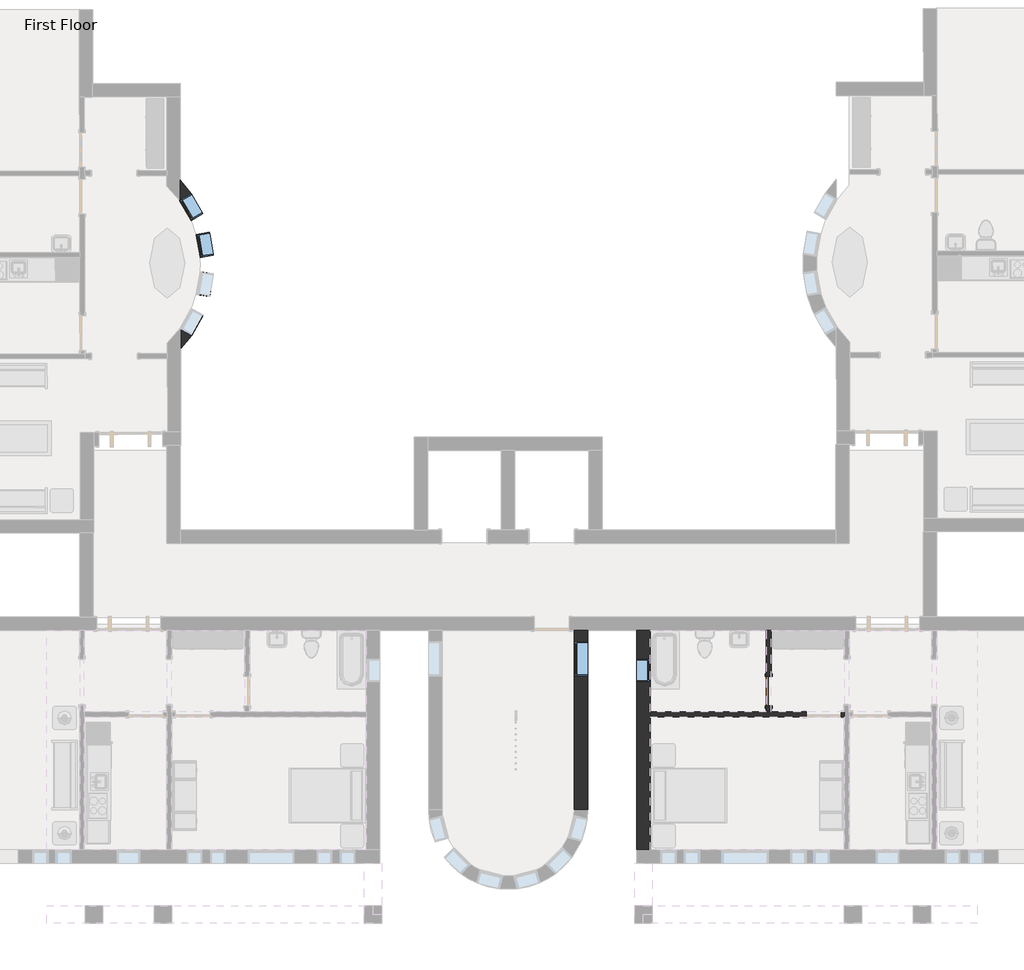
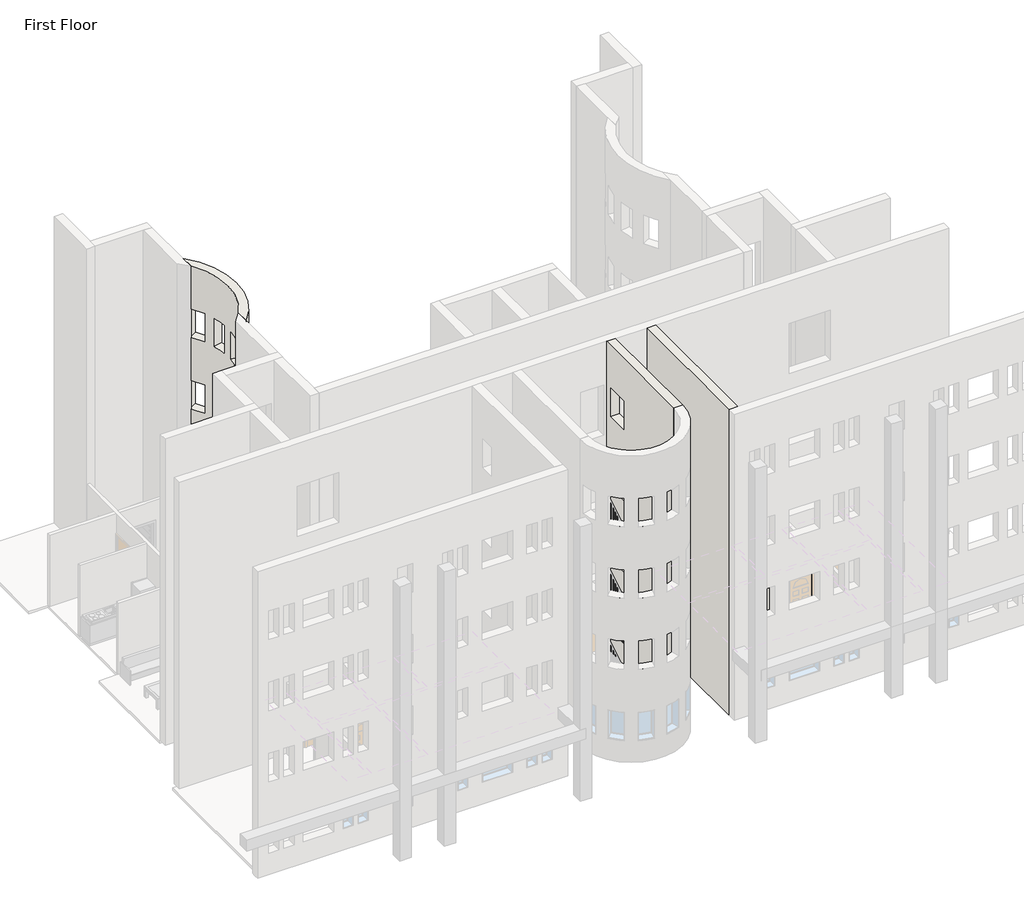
# One storey, part 5 of 21: 5 walls, 4 windows, 1 door.
"""IFC4 building model written with IfcOpenShell, lengths in millimetres."""

from ifc_helpers import new_model, si_unit, frame, origin, place, context, project, spatial, polyline, circle_curve, outline, extrude, faceted_brep, transform, mapped, element, save
from ifc_brep_helpers import plane_surface, cylinder_surface, revolved_surface, advanced_brep
from components import door_e36758a9, window_ed80354a, window_0e2fc6ce

model = new_model("IFC4")

# Units and contexts
model_context = context("Model", 3, world=origin())
ifc_project = project(units=[si_unit("LENGTHUNIT", "METRE", prefix="MILLI")], contexts=[model_context])

# Site, building, storey
site = spatial("IfcSite", under=ifc_project)
building = spatial("IfcBuilding", under=site)
storey = spatial("IfcBuildingStorey", under=building, Name="First Floor", Elevation=0.0)

# Door
placement = place(None, origin())
door_shape = door_e36758a9(model_context)
element("IfcDoor", 1, ObjectType="Single-Flush : 30\" x 84\"", at=placement, inside=storey, context=model_context, shape_type="MappedRepresentation", body=[
    mapped(door_shape, transform((-8105.7464563, -29722.2808133, 0.0), x_axis=(0.0, -1.0, 0.0), y_axis=(1.0, 0.0, 0.0), z_axis=(0.0, 0.0, 1.0))),
])

# Walls
element("IfcWall", 2, ObjectType="Exterior - Brick on Mtl. Stud", at=placement, inside=storey, context=model_context, shape_type="Brep", body=[
    faceted_brep([(-11569.6714563, -28134.7808133, 13106.4), (-11569.6714563, -33878.3558133, 13106.4), (-11217.2464563, -33878.3558133, 13106.4), (-11217.2464563, -28134.7808133, 13106.4), (-11569.6714563, -28134.7808133, 0.0), (-11569.6714563, -33878.3558133, 0.0), (-11569.6714563, -28872.9683133, 8229.6), (-11569.6714563, -29482.5683133, 8229.6), (-11569.6714563, -29482.5683133, 7010.4), (-11569.6714563, -28872.9683133, 7010.4), (-11569.6714563, -28872.9683133, 5181.6), (-11569.6714563, -29482.5683133, 5181.6), (-11569.6714563, -29482.5683133, 3962.4), (-11569.6714563, -28872.9683133, 3962.4), (-11569.6714563, -28872.9683133, 11277.6), (-11569.6714563, -29482.5683133, 11277.6), (-11569.6714563, -29482.5683133, 10058.4), (-11569.6714563, -28872.9683133, 10058.4), (-11569.6714563, -28872.9683133, 2133.6), (-11569.6714563, -29482.5683133, 2133.6), (-11569.6714563, -29482.5683133, 914.4), (-11569.6714563, -28872.9683133, 914.4), (-11217.2464563, -28134.7808133, 0.0), (-11217.2464563, -33878.3558133, 0.0), (-11217.2464563, -30395.3808133, 0.0), (-11217.2464563, -30268.3808133, 0.0), (-11217.2464563, -28872.9683133, 8229.6), (-11217.2464563, -28872.9683133, 7010.4), (-11217.2464563, -29482.5683133, 7010.4), (-11217.2464563, -29482.5683133, 8229.6), (-11217.2464563, -28872.9683133, 5181.6), (-11217.2464563, -28872.9683133, 3962.4), (-11217.2464563, -29482.5683133, 3962.4), (-11217.2464563, -29482.5683133, 5181.6), (-11217.2464563, -28872.9683133, 11277.6), (-11217.2464563, -28872.9683133, 10058.4), (-11217.2464563, -29482.5683133, 10058.4), (-11217.2464563, -29482.5683133, 11277.6), (-11217.2464563, -28872.9683133, 2133.6), (-11217.2464563, -28872.9683133, 914.4), (-11217.2464563, -29482.5683133, 914.4), (-11217.2464563, -29482.5683133, 2133.6), (-11382.3464563, -28134.7808133, 0.0), (-11382.3464563, -33878.3558133, 0.0)], [[[0, 1, 2, 3]], [[4, 5, 1, 0], [6, 7, 8, 9], [10, 11, 12, 13], [14, 15, 16, 17], [18, 19, 20, 21]], [[22, 3, 2, 23, 24, 25], [26, 27, 28, 29], [30, 31, 32, 33], [34, 35, 36, 37], [38, 39, 40, 41]], [[4, 0, 3, 22, 42]], [[1, 5, 43, 23, 2]], [[5, 4, 42, 43]], [[42, 22, 25, 24, 23, 43]], [[27, 26, 6, 9]], [[28, 27, 9, 8]], [[29, 28, 8, 7]], [[26, 29, 7, 6]], [[31, 30, 10, 13]], [[32, 31, 13, 12]], [[33, 32, 12, 11]], [[30, 33, 11, 10]], [[35, 34, 14, 17]], [[36, 35, 17, 16]], [[37, 36, 16, 15]], [[34, 37, 15, 14]], [[39, 38, 18, 21]], [[40, 39, 21, 20]], [[41, 40, 20, 19]], [[38, 41, 19, 18]]]),
])
element("IfcWall", 3, ObjectType="Exterior - Brick on Mtl. Stud", at=placement, inside=storey, context=model_context, shape_type="SweptSolid", body=[
    extrude(outline(polyline([(-28134.7808133, 0.0), (-32835.3683133, 0.0), (-32835.3683133, 13106.4), (-28134.7808133, 13106.4), (-28134.7808133, 0.0)]), holes=[polyline([(-29330.1683133, 8229.6), (-29330.1683133, 7010.4), (-28415.7683133, 7010.4), (-28415.7683133, 8229.6), (-29330.1683133, 8229.6)]), polyline([(-29330.1683133, 5181.6), (-29330.1683133, 3962.4), (-28415.7683133, 3962.4), (-28415.7683133, 5181.6), (-29330.1683133, 5181.6)]), polyline([(-29330.1683133, 11277.6), (-29330.1683133, 10058.4), (-28415.7683133, 10058.4), (-28415.7683133, 11277.6), (-29330.1683133, 11277.6)]), polyline([(-29330.1683133, 2133.6), (-29330.1683133, 914.4), (-28415.7683133, 914.4), (-28415.7683133, 2133.6), (-29330.1683133, 2133.6)])]), frame((-13206.3839563, 0.0, 0.0), z_axis=(1.0, 0.0, 0.0), x_axis=(0.0, 1.0, 0.0)), (0.0, 0.0, 1.0), 352.425),
])
element("IfcWall", 4, ObjectType="Exterior - Brick on Mtl. Stud", at=placement, inside=storey, context=model_context, shape_type="AdvancedBrep", body=[
    advanced_brep(
    [(-23510.1151853, -20743.0117614, 13106.4), (-23520.152293, -16334.2527188, 13106.4), (-23518.8821774, -16892.1458572, 13106.4), (-23511.3853009, -20185.118623, 13106.4), (-23520.152293, -16334.2527188, 0.0), (-23510.1151853, -20743.0117614, 0.0), (-23511.3853009, -20185.118623, 0.0), (-23518.8821774, -16892.1458572, 0.0), (-22933.0717066, -17209.2743071, 914.4), (-22933.0717066, -17209.2743071, 2133.6), (-23236.7539389, -16680.7014533, 2133.6), (-23236.7539389, -16680.7014533, 914.4), (-22927.0248626, -19865.3261284, 2133.6), (-22927.0248626, -19865.3261284, 914.4), (-23228.297231, -20395.2762393, 914.4), (-23228.297231, -20395.2762393, 2133.6), (-22933.0717066, -17209.2743071, 10058.4), (-22933.0717066, -17209.2743071, 11277.6), (-23236.7539389, -16680.7014533, 11277.6), (-23236.7539389, -16680.7014533, 10058.4), (-22927.0248626, -19865.3261284, 11277.6), (-22927.0248626, -19865.3261284, 10058.4), (-23228.297231, -20395.2762393, 10058.4), (-23228.297231, -20395.2762393, 11277.6), (-22933.0717066, -17209.2743071, 3962.4), (-22933.0717066, -17209.2743071, 5181.6), (-23236.7539389, -16680.7014533, 5181.6), (-23236.7539389, -16680.7014533, 3962.4), (-22927.0248626, -19865.3261284, 5181.6), (-22927.0248626, -19865.3261284, 3962.4), (-23228.297231, -20395.2762393, 3962.4), (-23228.297231, -20395.2762393, 5181.6), (-22933.0717066, -17209.2743071, 7010.4), (-22933.0717066, -17209.2743071, 8229.6), (-23236.7539389, -16680.7014533, 8229.6), (-23236.7539389, -16680.7014533, 7010.4), (-22927.0248626, -19865.3261284, 8229.6), (-22927.0248626, -19865.3261284, 7010.4), (-23228.297231, -20395.2762393, 7010.4), (-23228.297231, -20395.2762393, 8229.6), (-22652.5650573, -18781.0938546, 8229.6), (-22652.5650573, -18781.0938546, 7010.4), (-22754.6659029, -19382.0826876, 7010.4), (-22754.6659029, -19382.0826876, 8229.6), (-22653.6779832, -18292.245662, 8229.6), (-22758.5142132, -17691.7279479, 8229.6), (-22758.5142132, -17691.7279479, 7010.4), (-22653.6779832, -18292.245662, 7010.4), (-22652.5650573, -18781.0938546, 5181.6), (-22652.5650573, -18781.0938546, 3962.4), (-22754.6659029, -19382.0826876, 3962.4), (-22754.6659029, -19382.0826876, 5181.6), (-22653.6779832, -18292.245662, 5181.6), (-22758.5142132, -17691.7279479, 5181.6), (-22758.5142132, -17691.7279479, 3962.4), (-22653.6779832, -18292.245662, 3962.4), (-22652.5650573, -18781.0938546, 11277.6), (-22652.5650573, -18781.0938546, 10058.4), (-22754.6659029, -19382.0826876, 10058.4), (-22754.6659029, -19382.0826876, 11277.6), (-22653.6779832, -18292.245662, 11277.6), (-22758.5142132, -17691.7279479, 11277.6), (-22758.5142132, -17691.7279479, 10058.4), (-22653.6779832, -18292.245662, 10058.4), (-22652.5650573, -18781.0938546, 2133.6), (-22652.5650573, -18781.0938546, 914.4), (-22754.6659029, -19382.0826876, 914.4), (-22754.6659029, -19382.0826876, 2133.6), (-22653.6779832, -18292.245662, 2133.6), (-22758.5142132, -17691.7279479, 2133.6), (-22758.5142132, -17691.7279479, 914.4), (-22653.6779832, -18292.245662, 914.4), (-23518.8821774, -16892.1458572, 11277.6), (-23240.197604, -17385.7280871, 11277.6), (-23240.197604, -17385.7280871, 10058.4), (-23518.8821774, -16892.1458572, 10058.4), (-23518.8821774, -16892.1458572, 8229.6), (-23240.197604, -17385.7280871, 8229.6), (-23240.197604, -17385.7280871, 7010.4), (-23518.8821774, -16892.1458572, 7010.4), (-23518.8821774, -16892.1458572, 5181.6), (-23240.197604, -17385.7280871, 5181.6), (-23240.197604, -17385.7280871, 3962.4), (-23518.8821774, -16892.1458572, 3962.4), (-23518.8821774, -16892.1458572, 2133.6), (-23240.197604, -17385.7280871, 2133.6), (-23240.197604, -17385.7280871, 914.4), (-23518.8821774, -16892.1458572, 914.4), (-23511.3853009, -20185.118623, 914.4), (-23234.9510116, -19690.2725935, 914.4), (-23234.9510116, -19690.2725935, 2133.6), (-23511.3853009, -20185.118623, 2133.6), (-23511.3853009, -20185.118623, 3962.4), (-23234.9510116, -19690.2725935, 3962.4), (-23234.9510116, -19690.2725935, 5181.6), (-23511.3853009, -20185.118623, 5181.6), (-23511.3853009, -20185.118623, 7010.4), (-23234.9510116, -19690.2725935, 7010.4), (-23234.9510116, -19690.2725935, 8229.6), (-23511.3853009, -20185.118623, 8229.6), (-23511.3853009, -20185.118623, 10058.4), (-23234.9510116, -19690.2725935, 10058.4), (-23234.9510116, -19690.2725935, 11277.6), (-23511.3853009, -20185.118623, 11277.6), (-23001.7680731, -18721.7684209, 8229.6), (-23103.8689187, -19322.7572538, 8229.6), (-23103.8689187, -19322.7572538, 7010.4), (-23001.7680731, -18721.7684209, 7010.4), (-23002.6072565, -18353.1604838, 8229.6), (-23002.6072565, -18353.1604838, 7010.4), (-23107.4434865, -17752.6427697, 7010.4), (-23107.4434865, -17752.6427697, 8229.6), (-23001.7680731, -18721.7684209, 5181.6), (-23103.8689187, -19322.7572538, 5181.6), (-23103.8689187, -19322.7572538, 3962.4), (-23001.7680731, -18721.7684209, 3962.4), (-23002.6072565, -18353.1604838, 5181.6), (-23002.6072565, -18353.1604838, 3962.4), (-23107.4434865, -17752.6427697, 3962.4), (-23107.4434865, -17752.6427697, 5181.6), (-23001.7680731, -18721.7684209, 11277.6), (-23103.8689187, -19322.7572538, 11277.6), (-23103.8689187, -19322.7572538, 10058.4), (-23001.7680731, -18721.7684209, 10058.4), (-23002.6072565, -18353.1604838, 11277.6), (-23002.6072565, -18353.1604838, 10058.4), (-23107.4434865, -17752.6427697, 10058.4), (-23107.4434865, -17752.6427697, 11277.6), (-23001.7680731, -18721.7684209, 2133.6), (-23103.8689187, -19322.7572538, 2133.6), (-23103.8689187, -19322.7572538, 914.4), (-23001.7680731, -18721.7684209, 914.4), (-23002.6072565, -18353.1604838, 2133.6), (-23002.6072565, -18353.1604838, 914.4), (-23107.4434865, -17752.6427697, 914.4), (-23107.4434865, -17752.6427697, 2133.6), (-23511.2730901, -20234.4067432, 11277.6), (-23511.2730901, -20234.4067432, 10058.4), (-23511.2730901, -20234.4067432, 8229.6), (-23511.2730901, -20234.4067432, 7010.4), (-23511.2730901, -20234.4067432, 5181.6), (-23511.2730901, -20234.4067432, 3962.4), (-23511.2730901, -20234.4067432, 2133.6), (-23511.2730901, -20234.4067432, 914.4), (-23518.9943882, -16842.857737, 914.4), (-23518.9943882, -16842.857737, 2133.6), (-23518.9943882, -16842.857737, 3962.4), (-23518.9943882, -16842.857737, 5181.6), (-23518.9943882, -16842.857737, 7010.4), (-23518.9943882, -16842.857737, 8229.6), (-23518.9943882, -16842.857737, 10058.4), (-23518.9943882, -16842.857737, 11277.6)],
    [
        (0, 1, circle_curve(frame((-25868.0475266, -18543.9889514, 13106.4), z_axis=(0.0, 0.0, 1.0), x_axis=(0.0022766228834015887, -0.9999974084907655, 0.0)), 3224.2125)),
        (1, 2),
        (2, 3, circle_curve(frame((-25868.0475266, -18543.9889514, 13106.4), z_axis=(0.0, 0.0, -1.0), x_axis=(0.0022766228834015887, -0.9999974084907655, 0.0)), 2871.7875)),
        (3, 0),
        (4, 5, circle_curve(frame((-25868.0475266, -18543.9889514, 0.0), z_axis=(0.0, 0.0, -1.0), x_axis=(0.0022766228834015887, -0.9999974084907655, 0.0)), 3224.2125)),
        (5, 6),
        (6, 7, circle_curve(frame((-25868.0475266, -18543.9889514, 0.0), z_axis=(0.0, 0.0, 1.0), x_axis=(0.0022766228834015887, -0.9999974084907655, 0.0)), 2871.7875)),
        (7, 4),
        (0, 5),
        (4, 1),
        (8, 9),
        (9, 10, circle_curve(frame((-25868.0475266, -18543.9889514, 2133.6), z_axis=(0.0, 0.0, 1.0), x_axis=(0.0022766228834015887, -0.9999974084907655, 0.0)), 3224.2125)),
        (10, 11),
        (11, 8, circle_curve(frame((-25868.0475266, -18543.9889514, 914.4), z_axis=(0.0, 0.0, -1.0), x_axis=(0.0022766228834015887, -0.9999974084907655, 0.0)), 3224.2125)),
        (12, 13),
        (13, 14, circle_curve(frame((-25868.0475266, -18543.9889514, 914.4), z_axis=(0.0, 0.0, -1.0), x_axis=(0.0022766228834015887, -0.9999974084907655, 0.0)), 3224.2125)),
        (14, 15),
        (15, 12, circle_curve(frame((-25868.0475266, -18543.9889514, 2133.6), z_axis=(0.0, 0.0, 1.0), x_axis=(0.0022766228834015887, -0.9999974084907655, 0.0)), 3224.2125)),
        (16, 17),
        (17, 18, circle_curve(frame((-25868.0475266, -18543.9889514, 11277.6), z_axis=(0.0, 0.0, 1.0), x_axis=(0.0022766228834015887, -0.9999974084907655, 0.0)), 3224.2125)),
        (18, 19),
        (19, 16, circle_curve(frame((-25868.0475266, -18543.9889514, 10058.4), z_axis=(0.0, 0.0, -1.0), x_axis=(0.0022766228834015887, -0.9999974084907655, 0.0)), 3224.2125)),
        (20, 21),
        (21, 22, circle_curve(frame((-25868.0475266, -18543.9889514, 10058.4), z_axis=(0.0, 0.0, -1.0), x_axis=(0.0022766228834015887, -0.9999974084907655, 0.0)), 3224.2125)),
        (22, 23),
        (23, 20, circle_curve(frame((-25868.0475266, -18543.9889514, 11277.6), z_axis=(0.0, 0.0, 1.0), x_axis=(0.0022766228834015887, -0.9999974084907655, 0.0)), 3224.2125)),
        (24, 25),
        (25, 26, circle_curve(frame((-25868.0475266, -18543.9889514, 5181.6), z_axis=(0.0, 0.0, 1.0), x_axis=(0.0022766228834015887, -0.9999974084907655, 0.0)), 3224.2125)),
        (26, 27),
        (27, 24, circle_curve(frame((-25868.0475266, -18543.9889514, 3962.4), z_axis=(0.0, 0.0, -1.0), x_axis=(0.0022766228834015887, -0.9999974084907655, 0.0)), 3224.2125)),
        (28, 29),
        (29, 30, circle_curve(frame((-25868.0475266, -18543.9889514, 3962.4), z_axis=(0.0, 0.0, -1.0), x_axis=(0.0022766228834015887, -0.9999974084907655, 0.0)), 3224.2125)),
        (30, 31),
        (31, 28, circle_curve(frame((-25868.0475266, -18543.9889514, 5181.6), z_axis=(0.0, 0.0, 1.0), x_axis=(0.0022766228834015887, -0.9999974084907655, 0.0)), 3224.2125)),
        (32, 33),
        (33, 34, circle_curve(frame((-25868.0475266, -18543.9889514, 8229.6), z_axis=(0.0, 0.0, 1.0), x_axis=(0.0022766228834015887, -0.9999974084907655, 0.0)), 3224.2125)),
        (34, 35),
        (35, 32, circle_curve(frame((-25868.0475266, -18543.9889514, 7010.4), z_axis=(0.0, 0.0, -1.0), x_axis=(0.0022766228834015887, -0.9999974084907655, 0.0)), 3224.2125)),
        (36, 37),
        (37, 38, circle_curve(frame((-25868.0475266, -18543.9889514, 7010.4), z_axis=(0.0, 0.0, -1.0), x_axis=(0.0022766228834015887, -0.9999974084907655, 0.0)), 3224.2125)),
        (38, 39),
        (39, 36, circle_curve(frame((-25868.0475266, -18543.9889514, 8229.6), z_axis=(0.0, 0.0, 1.0), x_axis=(0.0022766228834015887, -0.9999974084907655, 0.0)), 3224.2125)),
        (40, 41),
        (41, 42, circle_curve(frame((-25868.0475266, -18543.9889514, 7010.4), z_axis=(0.0, 0.0, -1.0), x_axis=(0.0022766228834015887, -0.9999974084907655, 0.0)), 3224.2125)),
        (42, 43),
        (43, 40, circle_curve(frame((-25868.0475266, -18543.9889514, 8229.6), z_axis=(0.0, 0.0, 1.0), x_axis=(0.0022766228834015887, -0.9999974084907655, 0.0)), 3224.2125)),
        (44, 45, circle_curve(frame((-25868.0475266, -18543.9889514, 8229.6), z_axis=(0.0, 0.0, 1.0), x_axis=(0.0022766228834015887, -0.9999974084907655, 0.0)), 3224.2125)),
        (45, 46),
        (46, 47, circle_curve(frame((-25868.0475266, -18543.9889514, 7010.4), z_axis=(0.0, 0.0, -1.0), x_axis=(0.0022766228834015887, -0.9999974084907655, 0.0)), 3224.2125)),
        (47, 44),
        (48, 49),
        (49, 50, circle_curve(frame((-25868.0475266, -18543.9889514, 3962.4), z_axis=(0.0, 0.0, -1.0), x_axis=(0.0022766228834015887, -0.9999974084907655, 0.0)), 3224.2125)),
        (50, 51),
        (51, 48, circle_curve(frame((-25868.0475266, -18543.9889514, 5181.6), z_axis=(0.0, 0.0, 1.0), x_axis=(0.0022766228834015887, -0.9999974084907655, 0.0)), 3224.2125)),
        (52, 53, circle_curve(frame((-25868.0475266, -18543.9889514, 5181.6), z_axis=(0.0, 0.0, 1.0), x_axis=(0.0022766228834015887, -0.9999974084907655, 0.0)), 3224.2125)),
        (53, 54),
        (54, 55, circle_curve(frame((-25868.0475266, -18543.9889514, 3962.4), z_axis=(0.0, 0.0, -1.0), x_axis=(0.0022766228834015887, -0.9999974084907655, 0.0)), 3224.2125)),
        (55, 52),
        (56, 57),
        (57, 58, circle_curve(frame((-25868.0475266, -18543.9889514, 10058.4), z_axis=(0.0, 0.0, -1.0), x_axis=(0.0022766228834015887, -0.9999974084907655, 0.0)), 3224.2125)),
        (58, 59),
        (59, 56, circle_curve(frame((-25868.0475266, -18543.9889514, 11277.6), z_axis=(0.0, 0.0, 1.0), x_axis=(0.0022766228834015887, -0.9999974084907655, 0.0)), 3224.2125)),
        (60, 61, circle_curve(frame((-25868.0475266, -18543.9889514, 11277.6), z_axis=(0.0, 0.0, 1.0), x_axis=(0.0022766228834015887, -0.9999974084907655, 0.0)), 3224.2125)),
        (61, 62),
        (62, 63, circle_curve(frame((-25868.0475266, -18543.9889514, 10058.4), z_axis=(0.0, 0.0, -1.0), x_axis=(0.0022766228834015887, -0.9999974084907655, 0.0)), 3224.2125)),
        (63, 60),
        (64, 65),
        (65, 66, circle_curve(frame((-25868.0475266, -18543.9889514, 914.4), z_axis=(0.0, 0.0, -1.0), x_axis=(0.0022766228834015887, -0.9999974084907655, 0.0)), 3224.2125)),
        (66, 67),
        (67, 64, circle_curve(frame((-25868.0475266, -18543.9889514, 2133.6), z_axis=(0.0, 0.0, 1.0), x_axis=(0.0022766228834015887, -0.9999974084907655, 0.0)), 3224.2125)),
        (68, 69, circle_curve(frame((-25868.0475266, -18543.9889514, 2133.6), z_axis=(0.0, 0.0, 1.0), x_axis=(0.0022766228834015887, -0.9999974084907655, 0.0)), 3224.2125)),
        (69, 70),
        (70, 71, circle_curve(frame((-25868.0475266, -18543.9889514, 914.4), z_axis=(0.0, 0.0, -1.0), x_axis=(0.0022766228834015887, -0.9999974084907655, 0.0)), 3224.2125)),
        (71, 68),
        (2, 72),
        (72, 73, circle_curve(frame((-25868.0475266, -18543.9889514, 11277.6), z_axis=(0.0, 0.0, -1.0), x_axis=(0.0022766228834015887, -0.9999974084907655, 0.0)), 2871.7875)),
        (73, 74),
        (74, 75, circle_curve(frame((-25868.0475266, -18543.9889514, 10058.4), z_axis=(0.0, 0.0, 1.0), x_axis=(0.0022766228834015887, -0.9999974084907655, 0.0)), 2871.7875)),
        (75, 76),
        (76, 77, circle_curve(frame((-25868.0475266, -18543.9889514, 8229.6), z_axis=(0.0, 0.0, -1.0), x_axis=(0.0022766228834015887, -0.9999974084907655, 0.0)), 2871.7875)),
        (77, 78),
        (78, 79, circle_curve(frame((-25868.0475266, -18543.9889514, 7010.4), z_axis=(0.0, 0.0, 1.0), x_axis=(0.0022766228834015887, -0.9999974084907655, 0.0)), 2871.7875)),
        (79, 80),
        (80, 81, circle_curve(frame((-25868.0475266, -18543.9889514, 5181.6), z_axis=(0.0, 0.0, -1.0), x_axis=(0.0022766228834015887, -0.9999974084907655, 0.0)), 2871.7875)),
        (81, 82),
        (82, 83, circle_curve(frame((-25868.0475266, -18543.9889514, 3962.4), z_axis=(0.0, 0.0, 1.0), x_axis=(0.0022766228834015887, -0.9999974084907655, 0.0)), 2871.7875)),
        (83, 84),
        (84, 85, circle_curve(frame((-25868.0475266, -18543.9889514, 2133.6), z_axis=(0.0, 0.0, -1.0), x_axis=(0.0022766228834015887, -0.9999974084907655, 0.0)), 2871.7875)),
        (85, 86),
        (86, 87, circle_curve(frame((-25868.0475266, -18543.9889514, 914.4), z_axis=(0.0, 0.0, 1.0), x_axis=(0.0022766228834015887, -0.9999974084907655, 0.0)), 2871.7875)),
        (87, 7),
        (6, 88),
        (88, 89, circle_curve(frame((-25868.0475266, -18543.9889514, 914.4), z_axis=(0.0, 0.0, 1.0), x_axis=(0.0022766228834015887, -0.9999974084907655, 0.0)), 2871.7875)),
        (89, 90),
        (90, 91, circle_curve(frame((-25868.0475266, -18543.9889514, 2133.6), z_axis=(0.0, 0.0, -1.0), x_axis=(0.0022766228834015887, -0.9999974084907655, 0.0)), 2871.7875)),
        (91, 92),
        (92, 93, circle_curve(frame((-25868.0475266, -18543.9889514, 3962.4), z_axis=(0.0, 0.0, 1.0), x_axis=(0.0022766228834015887, -0.9999974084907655, 0.0)), 2871.7875)),
        (93, 94),
        (94, 95, circle_curve(frame((-25868.0475266, -18543.9889514, 5181.6), z_axis=(0.0, 0.0, -1.0), x_axis=(0.0022766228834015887, -0.9999974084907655, 0.0)), 2871.7875)),
        (95, 96),
        (96, 97, circle_curve(frame((-25868.0475266, -18543.9889514, 7010.4), z_axis=(0.0, 0.0, 1.0), x_axis=(0.0022766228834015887, -0.9999974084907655, 0.0)), 2871.7875)),
        (97, 98),
        (98, 99, circle_curve(frame((-25868.0475266, -18543.9889514, 8229.6), z_axis=(0.0, 0.0, -1.0), x_axis=(0.0022766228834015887, -0.9999974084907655, 0.0)), 2871.7875)),
        (99, 100),
        (100, 101, circle_curve(frame((-25868.0475266, -18543.9889514, 10058.4), z_axis=(0.0, 0.0, 1.0), x_axis=(0.0022766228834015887, -0.9999974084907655, 0.0)), 2871.7875)),
        (101, 102),
        (102, 103, circle_curve(frame((-25868.0475266, -18543.9889514, 11277.6), z_axis=(0.0, 0.0, -1.0), x_axis=(0.0022766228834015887, -0.9999974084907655, 0.0)), 2871.7875)),
        (103, 3),
        (104, 105, circle_curve(frame((-25868.0475266, -18543.9889514, 8229.6), z_axis=(0.0, 0.0, -1.0), x_axis=(0.0022766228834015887, -0.9999974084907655, 0.0)), 2871.7875)),
        (105, 106),
        (106, 107, circle_curve(frame((-25868.0475266, -18543.9889514, 7010.4), z_axis=(0.0, 0.0, 1.0), x_axis=(0.0022766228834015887, -0.9999974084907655, 0.0)), 2871.7875)),
        (107, 104),
        (108, 109),
        (109, 110, circle_curve(frame((-25868.0475266, -18543.9889514, 7010.4), z_axis=(0.0, 0.0, 1.0), x_axis=(0.0022766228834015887, -0.9999974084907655, 0.0)), 2871.7875)),
        (110, 111),
        (111, 108, circle_curve(frame((-25868.0475266, -18543.9889514, 8229.6), z_axis=(0.0, 0.0, -1.0), x_axis=(0.0022766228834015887, -0.9999974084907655, 0.0)), 2871.7875)),
        (112, 113, circle_curve(frame((-25868.0475266, -18543.9889514, 5181.6), z_axis=(0.0, 0.0, -1.0), x_axis=(0.0022766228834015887, -0.9999974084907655, 0.0)), 2871.7875)),
        (113, 114),
        (114, 115, circle_curve(frame((-25868.0475266, -18543.9889514, 3962.4), z_axis=(0.0, 0.0, 1.0), x_axis=(0.0022766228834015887, -0.9999974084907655, 0.0)), 2871.7875)),
        (115, 112),
        (116, 117),
        (117, 118, circle_curve(frame((-25868.0475266, -18543.9889514, 3962.4), z_axis=(0.0, 0.0, 1.0), x_axis=(0.0022766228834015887, -0.9999974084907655, 0.0)), 2871.7875)),
        (118, 119),
        (119, 116, circle_curve(frame((-25868.0475266, -18543.9889514, 5181.6), z_axis=(0.0, 0.0, -1.0), x_axis=(0.0022766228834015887, -0.9999974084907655, 0.0)), 2871.7875)),
        (120, 121, circle_curve(frame((-25868.0475266, -18543.9889514, 11277.6), z_axis=(0.0, 0.0, -1.0), x_axis=(0.0022766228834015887, -0.9999974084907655, 0.0)), 2871.7875)),
        (121, 122),
        (122, 123, circle_curve(frame((-25868.0475266, -18543.9889514, 10058.4), z_axis=(0.0, 0.0, 1.0), x_axis=(0.0022766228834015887, -0.9999974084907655, 0.0)), 2871.7875)),
        (123, 120),
        (124, 125),
        (125, 126, circle_curve(frame((-25868.0475266, -18543.9889514, 10058.4), z_axis=(0.0, 0.0, 1.0), x_axis=(0.0022766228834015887, -0.9999974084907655, 0.0)), 2871.7875)),
        (126, 127),
        (127, 124, circle_curve(frame((-25868.0475266, -18543.9889514, 11277.6), z_axis=(0.0, 0.0, -1.0), x_axis=(0.0022766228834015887, -0.9999974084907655, 0.0)), 2871.7875)),
        (128, 129, circle_curve(frame((-25868.0475266, -18543.9889514, 2133.6), z_axis=(0.0, 0.0, -1.0), x_axis=(0.0022766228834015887, -0.9999974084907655, 0.0)), 2871.7875)),
        (129, 130),
        (130, 131, circle_curve(frame((-25868.0475266, -18543.9889514, 914.4), z_axis=(0.0, 0.0, 1.0), x_axis=(0.0022766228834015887, -0.9999974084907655, 0.0)), 2871.7875)),
        (131, 128),
        (132, 133),
        (133, 134, circle_curve(frame((-25868.0475266, -18543.9889514, 914.4), z_axis=(0.0, 0.0, 1.0), x_axis=(0.0022766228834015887, -0.9999974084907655, 0.0)), 2871.7875)),
        (134, 135),
        (135, 132, circle_curve(frame((-25868.0475266, -18543.9889514, 2133.6), z_axis=(0.0, 0.0, -1.0), x_axis=(0.0022766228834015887, -0.9999974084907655, 0.0)), 2871.7875)),
        (103, 136),
        (136, 137),
        (137, 100),
        (99, 138),
        (138, 139),
        (139, 96),
        (95, 140),
        (140, 141),
        (141, 92),
        (91, 142),
        (142, 143),
        (143, 88),
        (87, 144),
        (144, 145),
        (145, 84),
        (83, 146),
        (146, 147),
        (147, 80),
        (79, 148),
        (148, 149),
        (149, 76),
        (75, 150),
        (150, 151),
        (151, 72),
        (85, 9),
        (8, 86),
        (11, 144),
        (10, 145),
        (12, 90),
        (89, 13),
        (143, 14),
        (142, 15),
        (73, 17),
        (16, 74),
        (19, 150),
        (18, 151),
        (20, 102),
        (101, 21),
        (137, 22),
        (136, 23),
        (81, 25),
        (24, 82),
        (27, 146),
        (26, 147),
        (28, 94),
        (93, 29),
        (141, 30),
        (140, 31),
        (77, 33),
        (32, 78),
        (35, 148),
        (34, 149),
        (36, 98),
        (97, 37),
        (139, 38),
        (138, 39),
        (40, 104),
        (107, 41),
        (106, 42),
        (105, 43),
        (108, 44),
        (47, 109),
        (46, 110),
        (45, 111),
        (48, 112),
        (115, 49),
        (114, 50),
        (113, 51),
        (116, 52),
        (55, 117),
        (54, 118),
        (53, 119),
        (56, 120),
        (123, 57),
        (122, 58),
        (121, 59),
        (124, 60),
        (63, 125),
        (62, 126),
        (61, 127),
        (64, 128),
        (131, 65),
        (130, 66),
        (129, 67),
        (132, 68),
        (71, 133),
        (70, 134),
        (69, 135),
    ],
    [
        plane_surface(frame((-25860.7072106, -21768.1930958, 13106.4), z_axis=(0.0, 0.0, 1.0), x_axis=(0.9999974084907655, 0.0022766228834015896, 0.0))),
        plane_surface(frame((-25860.7072106, -21768.1930958, 0.0), z_axis=(0.0, 0.0, -1.0), x_axis=(-0.9999974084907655, -0.0022766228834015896, 0.0))),
        cylinder_surface(frame((-25868.0475266, -18543.9889514, 0.0), z_axis=(0.0, 0.0, 0.9999999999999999), x_axis=(0.0022766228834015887, -0.9999974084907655, 0.0)), 3224.2125),
        revolved_surface(polyline([(-25861.509549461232, -21415.769009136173, 0.0), (-25861.509549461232, -21415.769009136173, 13106.399999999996)]), (-25868.0475266, -18543.9889514, 0.0), (0.0, 0.0, -0.9999999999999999)),
        plane_surface(frame((-23504.7250193, -23110.6203917, 0.0), z_axis=(-0.9999974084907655, -0.002276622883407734, 0.0), x_axis=(-0.002276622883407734, 0.9999974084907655, 0.0))),
        plane_surface(frame((-23525.542459, -13966.6440885, 0.0), z_axis=(-0.9999974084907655, -0.0022766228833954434, 0.0), x_axis=(-0.0022766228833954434, 0.9999974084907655, 0.0))),
        plane_surface(frame((-21611.639572, -16450.0687265, 2133.6), z_axis=(-0.49816639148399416, 0.8670814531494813, 0.0), x_axis=(-0.8670814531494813, -0.49816639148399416, 0.0))),
        plane_surface(frame((-21611.639572, -16450.0687265, 914.4), z_axis=(0.0, 0.0, 1.0000000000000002), x_axis=(-0.8670814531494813, -0.49816639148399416, 0.0))),
        plane_surface(frame((-21915.3218043, -15921.4958726, 914.4), z_axis=(0.49816639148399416, -0.8670814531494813, 0.0), x_axis=(-0.8670814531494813, -0.49816639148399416, 0.0))),
        plane_surface(frame((-21915.3218043, -15921.4958726, 2133.6), z_axis=(0.0, 0.0, -1.0000000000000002), x_axis=(-0.8670814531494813, -0.49816639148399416, 0.0))),
        plane_surface(frame((-24251.9001399, -19112.1452074, 2133.6), z_axis=(-0.4942132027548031, -0.8693407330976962, 0.0), x_axis=(0.8693407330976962, -0.4942132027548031, 0.0))),
        plane_surface(frame((-24251.9001399, -19112.1452074, 914.4), z_axis=(0.0, 0.0, 1.0), x_axis=(0.8693407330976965, -0.4942132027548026, 0.0))),
        plane_surface(frame((-24553.1725083, -19642.0953183, 914.4), z_axis=(0.4942132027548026, 0.8693407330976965, 0.0), x_axis=(0.8693407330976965, -0.4942132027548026, 0.0))),
        plane_surface(frame((-24553.1725083, -19642.0953183, 2133.6), z_axis=(0.0, 0.0, -1.0), x_axis=(0.8693407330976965, -0.4942132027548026, 0.0))),
        plane_surface(frame((-21611.639572, -16450.0687265, 11277.6), z_axis=(-0.49816639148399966, 0.867081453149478, 0.0), x_axis=(-0.867081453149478, -0.49816639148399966, 0.0))),
        plane_surface(frame((-21611.639572, -16450.0687265, 10058.4), z_axis=(0.0, 0.0, 1.0000000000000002), x_axis=(-0.867081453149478, -0.49816639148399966, 0.0))),
        plane_surface(frame((-21915.3218043, -15921.4958726, 10058.4), z_axis=(0.49816639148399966, -0.867081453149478, 0.0), x_axis=(-0.867081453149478, -0.49816639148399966, 0.0))),
        plane_surface(frame((-21915.3218043, -15921.4958726, 11277.6), z_axis=(0.0, 0.0, -1.0000000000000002), x_axis=(-0.867081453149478, -0.49816639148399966, 0.0))),
        plane_surface(frame((-24251.9001399, -19112.1452074, 11277.6), z_axis=(-0.49421320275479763, -0.8693407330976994, 0.0), x_axis=(0.8693407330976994, -0.49421320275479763, 0.0))),
        plane_surface(frame((-24251.9001399, -19112.1452074, 10058.4), z_axis=(0.0, 0.0, 1.0), x_axis=(0.8693407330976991, -0.49421320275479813, 0.0))),
        plane_surface(frame((-24553.1725083, -19642.0953183, 10058.4), z_axis=(0.49421320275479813, 0.8693407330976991, 0.0), x_axis=(0.8693407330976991, -0.49421320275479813, 0.0))),
        plane_surface(frame((-24553.1725083, -19642.0953183, 11277.6), z_axis=(0.0, 0.0, -1.0), x_axis=(0.8693407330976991, -0.49421320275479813, 0.0))),
        plane_surface(frame((-21611.639572, -16450.0687265, 5181.6), z_axis=(-0.49816639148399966, 0.867081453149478, 0.0), x_axis=(-0.867081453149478, -0.49816639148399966, 0.0))),
        plane_surface(frame((-21611.639572, -16450.0687265, 3962.4), z_axis=(0.0, 0.0, 1.0000000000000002), x_axis=(-0.867081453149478, -0.49816639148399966, 0.0))),
        plane_surface(frame((-21915.3218043, -15921.4958726, 3962.4), z_axis=(0.49816639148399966, -0.867081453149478, 0.0), x_axis=(-0.867081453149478, -0.49816639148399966, 0.0))),
        plane_surface(frame((-21915.3218043, -15921.4958726, 5181.6), z_axis=(0.0, 0.0, -1.0000000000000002), x_axis=(-0.867081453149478, -0.49816639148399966, 0.0))),
        plane_surface(frame((-24251.9001399, -19112.1452074, 5181.6), z_axis=(-0.49421320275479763, -0.8693407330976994, 0.0), x_axis=(0.8693407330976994, -0.49421320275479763, 0.0))),
        plane_surface(frame((-24251.9001399, -19112.1452074, 3962.4), z_axis=(0.0, 0.0, 1.0), x_axis=(0.8693407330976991, -0.49421320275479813, 0.0))),
        plane_surface(frame((-24553.1725083, -19642.0953183, 3962.4), z_axis=(0.49421320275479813, 0.8693407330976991, 0.0), x_axis=(0.8693407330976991, -0.49421320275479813, 0.0))),
        plane_surface(frame((-24553.1725083, -19642.0953183, 5181.6), z_axis=(0.0, 0.0, -1.0), x_axis=(0.8693407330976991, -0.49421320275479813, 0.0))),
        plane_surface(frame((-21611.639572, -16450.0687265, 8229.6), z_axis=(-0.49816639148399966, 0.867081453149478, 0.0), x_axis=(-0.867081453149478, -0.49816639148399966, 0.0))),
        plane_surface(frame((-21611.639572, -16450.0687265, 7010.4), z_axis=(0.0, 0.0, 1.0000000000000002), x_axis=(-0.867081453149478, -0.49816639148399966, 0.0))),
        plane_surface(frame((-21915.3218043, -15921.4958726, 7010.4), z_axis=(0.49816639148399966, -0.867081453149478, 0.0), x_axis=(-0.867081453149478, -0.49816639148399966, 0.0))),
        plane_surface(frame((-21915.3218043, -15921.4958726, 8229.6), z_axis=(0.0, 0.0, -1.0000000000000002), x_axis=(-0.867081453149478, -0.49816639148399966, 0.0))),
        plane_surface(frame((-24251.9001399, -19112.1452074, 8229.6), z_axis=(-0.49421320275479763, -0.8693407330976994, 0.0), x_axis=(0.8693407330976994, -0.49421320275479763, 0.0))),
        plane_surface(frame((-24251.9001399, -19112.1452074, 7010.4), z_axis=(0.0, 0.0, 1.0), x_axis=(0.8693407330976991, -0.49421320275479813, 0.0))),
        plane_surface(frame((-24553.1725083, -19642.0953183, 7010.4), z_axis=(0.49421320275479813, 0.8693407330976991, 0.0), x_axis=(0.8693407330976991, -0.49421320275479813, 0.0))),
        plane_surface(frame((-24553.1725083, -19642.0953183, 8229.6), z_axis=(0.0, 0.0, -1.0), x_axis=(0.8693407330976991, -0.49421320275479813, 0.0))),
        plane_surface(frame((-22652.5650573, -18781.0938546, 8229.6), z_axis=(-0.16748826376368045, -0.9858740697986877, 0.0), x_axis=(-0.9858740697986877, 0.16748826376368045, 0.0))),
        plane_surface(frame((-22652.5650573, -18781.0938546, 7010.4), z_axis=(0.0, 0.0, 1.0), x_axis=(-0.9858740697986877, 0.16748826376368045, 0.0))),
        plane_surface(frame((-22754.6659029, -19382.0826876, 7010.4), z_axis=(0.16748826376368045, 0.9858740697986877, 0.0), x_axis=(-0.9858740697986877, 0.16748826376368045, 0.0))),
        plane_surface(frame((-22754.6659029, -19382.0826876, 8229.6), z_axis=(0.0, 0.0, -1.0), x_axis=(-0.9858740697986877, 0.16748826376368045, 0.0))),
        plane_surface(frame((-23002.6072565, -18353.1604838, 8229.6), z_axis=(-0.17197544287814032, 0.9851012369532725, 0.0), x_axis=(0.9851012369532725, 0.17197544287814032, 0.0))),
        plane_surface(frame((-23002.6072565, -18353.1604838, 7010.4), z_axis=(0.0, 0.0, 1.0), x_axis=(0.9851012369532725, 0.17197544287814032, 0.0))),
        plane_surface(frame((-23107.4434865, -17752.6427697, 7010.4), z_axis=(0.17197544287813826, -0.9851012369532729, 0.0), x_axis=(0.9851012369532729, 0.17197544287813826, 0.0))),
        plane_surface(frame((-23107.4434865, -17752.6427697, 8229.6), z_axis=(0.0, 0.0, -1.0000000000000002), x_axis=(0.9851012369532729, 0.17197544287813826, 0.0))),
        plane_surface(frame((-22652.5650573, -18781.0938546, 5181.6), z_axis=(-0.16748826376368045, -0.9858740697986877, 0.0), x_axis=(-0.9858740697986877, 0.16748826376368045, 0.0))),
        plane_surface(frame((-22652.5650573, -18781.0938546, 3962.4), z_axis=(0.0, 0.0, 1.0), x_axis=(-0.9858740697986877, 0.16748826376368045, 0.0))),
        plane_surface(frame((-22754.6659029, -19382.0826876, 3962.4), z_axis=(0.16748826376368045, 0.9858740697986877, 0.0), x_axis=(-0.9858740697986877, 0.16748826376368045, 0.0))),
        plane_surface(frame((-22754.6659029, -19382.0826876, 5181.6), z_axis=(0.0, 0.0, -1.0), x_axis=(-0.9858740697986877, 0.16748826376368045, 0.0))),
        plane_surface(frame((-23002.6072565, -18353.1604838, 5181.6), z_axis=(-0.17197544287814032, 0.9851012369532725, 0.0), x_axis=(0.9851012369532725, 0.17197544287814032, 0.0))),
        plane_surface(frame((-23002.6072565, -18353.1604838, 3962.4), z_axis=(0.0, 0.0, 1.0), x_axis=(0.9851012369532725, 0.17197544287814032, 0.0))),
        plane_surface(frame((-23107.4434865, -17752.6427697, 3962.4), z_axis=(0.17197544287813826, -0.9851012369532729, 0.0), x_axis=(0.9851012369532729, 0.17197544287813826, 0.0))),
        plane_surface(frame((-23107.4434865, -17752.6427697, 5181.6), z_axis=(0.0, 0.0, -1.0000000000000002), x_axis=(0.9851012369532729, 0.17197544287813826, 0.0))),
        plane_surface(frame((-22652.5650573, -18781.0938546, 11277.6), z_axis=(-0.16748826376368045, -0.9858740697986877, 0.0), x_axis=(-0.9858740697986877, 0.16748826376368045, 0.0))),
        plane_surface(frame((-22652.5650573, -18781.0938546, 10058.4), z_axis=(0.0, 0.0, 1.0), x_axis=(-0.9858740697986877, 0.16748826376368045, 0.0))),
        plane_surface(frame((-22754.6659029, -19382.0826876, 10058.4), z_axis=(0.16748826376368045, 0.9858740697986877, 0.0), x_axis=(-0.9858740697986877, 0.16748826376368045, 0.0))),
        plane_surface(frame((-22754.6659029, -19382.0826876, 11277.6), z_axis=(0.0, 0.0, -1.0), x_axis=(-0.9858740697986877, 0.16748826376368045, 0.0))),
        plane_surface(frame((-23002.6072565, -18353.1604838, 11277.6), z_axis=(-0.17197544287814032, 0.9851012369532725, 0.0), x_axis=(0.9851012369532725, 0.17197544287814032, 0.0))),
        plane_surface(frame((-23002.6072565, -18353.1604838, 10058.4), z_axis=(0.0, 0.0, 1.0), x_axis=(0.9851012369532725, 0.17197544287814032, 0.0))),
        plane_surface(frame((-23107.4434865, -17752.6427697, 10058.4), z_axis=(0.17197544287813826, -0.9851012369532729, 0.0), x_axis=(0.9851012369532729, 0.17197544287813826, 0.0))),
        plane_surface(frame((-23107.4434865, -17752.6427697, 11277.6), z_axis=(0.0, 0.0, -1.0000000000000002), x_axis=(0.9851012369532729, 0.17197544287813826, 0.0))),
        plane_surface(frame((-22652.5650573, -18781.0938546, 2133.6), z_axis=(-0.16748826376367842, -0.9858740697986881, 0.0), x_axis=(-0.9858740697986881, 0.16748826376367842, 0.0))),
        plane_surface(frame((-22652.5650573, -18781.0938546, 914.4), z_axis=(0.0, 0.0, 1.0), x_axis=(-0.9858740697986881, 0.16748826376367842, 0.0))),
        plane_surface(frame((-22754.6659029, -19382.0826876, 914.4), z_axis=(0.1674882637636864, 0.9858740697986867, 0.0), x_axis=(-0.9858740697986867, 0.1674882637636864, 0.0))),
        plane_surface(frame((-22754.6659029, -19382.0826876, 2133.6), z_axis=(0.0, 0.0, -1.0), x_axis=(-0.9858740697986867, 0.1674882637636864, 0.0))),
        plane_surface(frame((-23002.6072565, -18353.1604838, 2133.6), z_axis=(-0.17197544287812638, 0.9851012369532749, 0.0), x_axis=(0.9851012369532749, 0.17197544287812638, 0.0))),
        plane_surface(frame((-23002.6072565, -18353.1604838, 914.4), z_axis=(0.0, 0.0, 1.0), x_axis=(0.9851012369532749, 0.17197544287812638, 0.0))),
        plane_surface(frame((-23107.4434865, -17752.6427697, 914.4), z_axis=(0.17197544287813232, -0.9851012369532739, 0.0), x_axis=(0.9851012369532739, 0.17197544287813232, 0.0))),
        plane_surface(frame((-23107.4434865, -17752.6427697, 2133.6), z_axis=(0.0, 0.0, -1.0), x_axis=(0.9851012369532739, 0.17197544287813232, 0.0))),
    ],
    [
        (0, [[1, 2, 3, 4]]),
        (1, [[5, 6, 7, 8]]),
        (2, [[-1, 9, -5, 10], [11, 12, 13, 14], [15, 16, 17, 18], [19, 20, 21, 22], [23, 24, 25, 26], [27, 28, 29, 30], [31, 32, 33, 34], [35, 36, 37, 38], [39, 40, 41, 42], [43, 44, 45, 46], [47, 48, 49, 50], [51, 52, 53, 54], [55, 56, 57, 58], [59, 60, 61, 62], [63, 64, 65, 66], [67, 68, 69, 70], [71, 72, 73, 74]]),
        (3, [[-3, 75, 76, 77, 78, 79, 80, 81, 82, 83, 84, 85, 86, 87, 88, 89, 90, 91, -7, 92, 93, 94, 95, 96, 97, 98, 99, 100, 101, 102, 103, 104, 105, 106, 107, 108], [109, 110, 111, 112], [113, 114, 115, 116], [117, 118, 119, 120], [121, 122, 123, 124], [125, 126, 127, 128], [129, 130, 131, 132], [133, 134, 135, 136], [137, 138, 139, 140]]),
        (4, [[-4, -108, 141, 142, 143, -104, 144, 145, 146, -100, 147, 148, 149, -96, 150, 151, 152, -92, -6, -9]]),
        (5, [[-2, -10, -8, -91, 153, 154, 155, -87, 156, 157, 158, -83, 159, 160, 161, -79, 162, 163, 164, -75]]),
        (6, [[165, -11, 166, -89]]),
        (7, [[-166, -14, 167, -153, -90]]),
        (8, [[-167, -13, 168, -154]]),
        (9, [[-165, -88, -155, -168, -12]]),
        (10, [[169, -94, 170, -15]]),
        (11, [[-170, -93, -152, 171, -16]]),
        (12, [[-171, -151, 172, -17]]),
        (13, [[-169, -18, -172, -150, -95]]),
        (14, [[173, -19, 174, -77]]),
        (15, [[-174, -22, 175, -162, -78]]),
        (16, [[-175, -21, 176, -163]]),
        (17, [[-173, -76, -164, -176, -20]]),
        (18, [[177, -106, 178, -23]]),
        (19, [[-178, -105, -143, 179, -24]]),
        (20, [[-179, -142, 180, -25]]),
        (21, [[-177, -26, -180, -141, -107]]),
        (22, [[181, -27, 182, -85]]),
        (23, [[-182, -30, 183, -156, -86]]),
        (24, [[-183, -29, 184, -157]]),
        (25, [[-181, -84, -158, -184, -28]]),
        (26, [[185, -98, 186, -31]]),
        (27, [[-186, -97, -149, 187, -32]]),
        (28, [[-187, -148, 188, -33]]),
        (29, [[-185, -34, -188, -147, -99]]),
        (30, [[189, -35, 190, -81]]),
        (31, [[-190, -38, 191, -159, -82]]),
        (32, [[-191, -37, 192, -160]]),
        (33, [[-189, -80, -161, -192, -36]]),
        (34, [[193, -102, 194, -39]]),
        (35, [[-194, -101, -146, 195, -40]]),
        (36, [[-195, -145, 196, -41]]),
        (37, [[-193, -42, -196, -144, -103]]),
        (38, [[-43, 197, -112, 198]]),
        (39, [[-44, -198, -111, 199]]),
        (40, [[-45, -199, -110, 200]]),
        (41, [[-46, -200, -109, -197]]),
        (42, [[-113, 201, -50, 202]]),
        (43, [[-114, -202, -49, 203]]),
        (44, [[-115, -203, -48, 204]]),
        (45, [[-116, -204, -47, -201]]),
        (46, [[-51, 205, -120, 206]]),
        (47, [[-52, -206, -119, 207]]),
        (48, [[-53, -207, -118, 208]]),
        (49, [[-54, -208, -117, -205]]),
        (50, [[-121, 209, -58, 210]]),
        (51, [[-122, -210, -57, 211]]),
        (52, [[-123, -211, -56, 212]]),
        (53, [[-124, -212, -55, -209]]),
        (54, [[-59, 213, -128, 214]]),
        (55, [[-60, -214, -127, 215]]),
        (56, [[-61, -215, -126, 216]]),
        (57, [[-62, -216, -125, -213]]),
        (58, [[-129, 217, -66, 218]]),
        (59, [[-130, -218, -65, 219]]),
        (60, [[-131, -219, -64, 220]]),
        (61, [[-132, -220, -63, -217]]),
        (62, [[-67, 221, -136, 222]]),
        (63, [[-68, -222, -135, 223]]),
        (64, [[-69, -223, -134, 224]]),
        (65, [[-70, -224, -133, -221]]),
        (66, [[-137, 225, -74, 226]]),
        (67, [[-138, -226, -73, 227]]),
        (68, [[-139, -227, -72, 228]]),
        (69, [[-140, -228, -71, -225]]),
    ],
),
])
element("IfcWall", 5, ObjectType="Interior - 5\" Partition (2-hr)", at=placement, inside=storey, context=model_context, shape_type="Brep", body=[
    faceted_brep([(-6122.9589563, -30395.3808133, 0.0), (-6211.8589563, -30395.3808133, 0.0), (-6211.8589563, -30268.3808133, 0.0), (-6122.9589563, -30268.3808133, 0.0), (-7126.2589563, -30395.3808133, 0.0), (-11217.2464563, -30395.3808133, 0.0), (-11217.2464563, -30268.3808133, 0.0), (-8169.2464563, -30268.3808133, 0.0), (-8042.2464563, -30268.3808133, 0.0), (-7126.2589563, -30268.3808133, 0.0), (-11217.2464563, -30395.3808133, 3048.0), (-6122.9589563, -30395.3808133, 3048.0), (-6122.9589563, -30268.3808133, 3048.0), (-8042.2464563, -30268.3808133, 3048.0), (-8169.2464563, -30268.3808133, 3048.0), (-11217.2464563, -30268.3808133, 3048.0), (-6211.8589563, -30395.3808133, 2133.6), (-7126.2589563, -30395.3808133, 2133.6), (-6211.8589563, -30268.3808133, 2133.6), (-7126.2589563, -30268.3808133, 2133.6)], [[[0, 1, 2, 3]], [[4, 5, 6, 7, 8, 9]], [[10, 11, 12, 13, 14, 15]], [[16, 1, 0, 11, 10, 5, 4, 17]], [[3, 2, 18, 19, 9, 8, 7, 6, 15, 14, 13, 12]], [[5, 10, 15, 6]], [[11, 0, 3, 12]], [[18, 2, 1, 16]], [[19, 18, 16, 17]], [[9, 19, 17, 4]]]),
])
element("IfcWall", 6, ObjectType="Interior - 5\" Partition (2-hr)", at=placement, inside=storey, context=model_context, shape_type="SweptSolid", body=[
    extrude(outline(polyline([(-30103.2808133, 2133.6), (-30103.2808133, 0.0), (-30268.3808133, 0.0), (-30268.3808133, 3048.0), (-28134.7808133, 3048.0), (-28134.7808133, 0.0), (-29341.2808133, 0.0), (-29341.2808133, 2133.6), (-30103.2808133, 2133.6)])), frame((-8169.2464563, 0.0, 0.0), z_axis=(1.0, 0.0, 0.0), x_axis=(0.0, 1.0, 0.0)), (0.0, 0.0, 1.0), 127.0),
])

# Windows
window_shape = window_ed80354a(model_context)
element("IfcWindow", 7, ObjectType="Fixed : 24\" x 48\"", at=placement, inside=storey, context=model_context, shape_type="MappedRepresentation", body=[
    mapped(window_shape, transform((-11393.4589563, -29139.6683133, 0.0), x_axis=(0.0, 1.0, 0.0), y_axis=(-1.0, 0.0, 0.0), z_axis=(0.0, 0.0, 1.0))),
])
element("IfcWindow", 8, ObjectType="Fixed : 24\" x 48\"", at=placement, inside=storey, context=model_context, shape_type="MappedRepresentation", body=[
    mapped(window_shape, transform((-23218.7232738, -17065.8068288, 0.0), x_axis=(0.4981663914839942, -0.867081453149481, 0.0), y_axis=(0.8670814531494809, 0.49816639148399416, 0.0), z_axis=(0.0, 0.0, 0.9999999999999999))),
])
element("IfcWindow", 9, ObjectType="Fixed : 24\" x 48\"", at=placement, inside=storey, context=model_context, shape_type="MappedRepresentation", body=[
    mapped(window_shape, transform((-22873.1309855, -18059.8233848, 0.0), x_axis=(0.17197544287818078, -0.9851012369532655, 0.0), y_axis=(0.9851012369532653, 0.17197544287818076, 0.0), z_axis=(0.0, 0.0, 0.9999999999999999))),
])
window_2_shape = window_0e2fc6ce(model_context)
element("IfcWindow", 10, ObjectType="Fixed : 36\" x 48\"", at=placement, inside=storey, context=model_context, shape_type="MappedRepresentation", body=[
    mapped(window_2_shape, transform((-13030.1714563, -28911.0683133, 0.0), x_axis=(0.0, -1.0, 0.0), y_axis=(1.0, 0.0, 0.0), z_axis=(0.0, 0.0, 1.0))),
])

save(model, "model.ifc")
